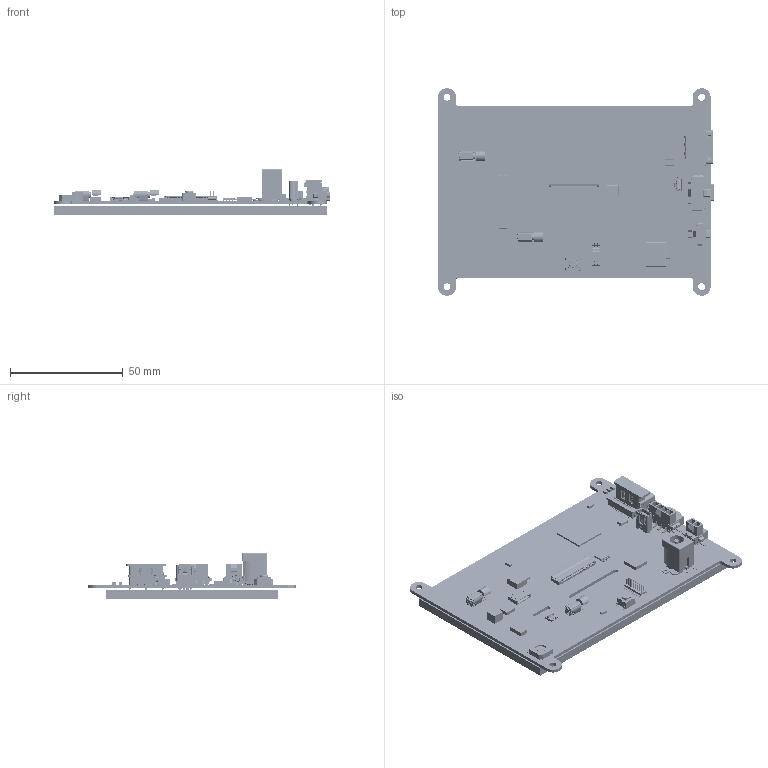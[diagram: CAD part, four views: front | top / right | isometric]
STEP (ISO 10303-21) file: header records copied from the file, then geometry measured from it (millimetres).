
FILE_DESCRIPTION (( 'STEP AP214' ), '1' );
FILE_NAME ('HTT50A Vert. Mount TPR R3.0.2.STEP', '2021-08-24T16:13:44', ( '' ), ( '' ), 'SwSTEP 2.0', 'SolidWorks 2018', '' );
FILE_SCHEMA (( 'AUTOMOTIVE_DESIGN' ));
Length unit declared in the file: millimetre
Products named in the file (4): MOPTFT800480-50 TPR; HTT50x VERT; HTT50A Vert. Mount TPR R3.0.2; HTT50x R3.0.2 Parts_only
Assembly tree (3 placements, depth 2):
  HTT50A Vert. Mount TPR R3.0.2
    HTT50x VERT
    HTT50x R3.0.2 Parts_only
    MOPTFT800480-50 TPR
Bounding box: 122.2 x 91.8 x 20.06 mm (x, y, z)
Volume: 50062.9 mm3; surface area: 71700.3 mm2
Topology: 2 solids, 167 shells, 13169 faces, 36785 edges, 23769 vertices
Faces by surface type: plane 9369, cylinder 2464, bspline 1258, cone 38, sphere 30, torus 10
Entity records: 571150 total; most frequent: CARTESIAN_POINT 94579, ORIENTED_EDGE 73444, DIRECTION 61752, EDGE_CURVE 36761, VECTOR 28124, LINE 28124, VERTEX_POINT 23761, AXIS2_PLACEMENT_3D 16814
